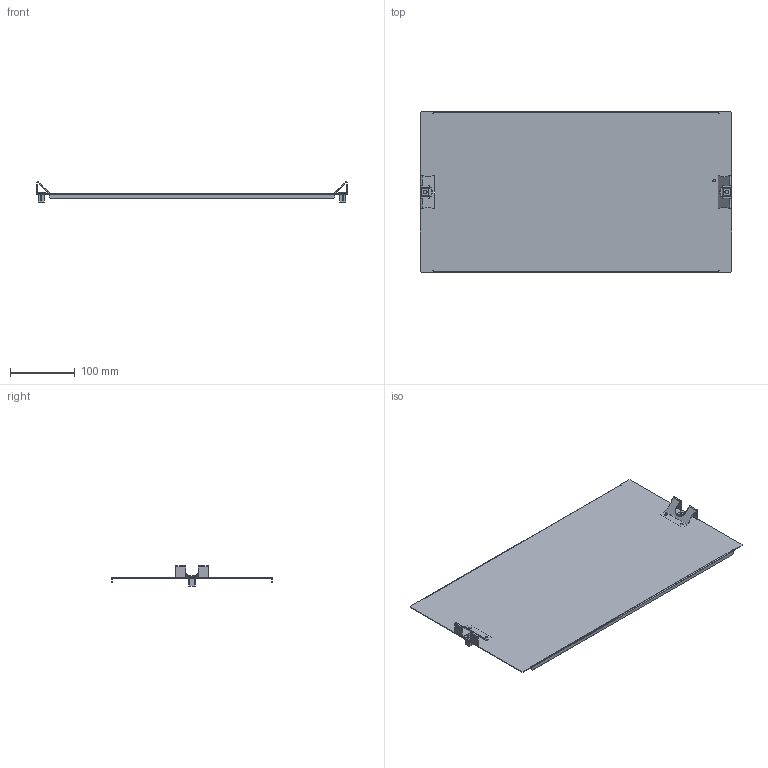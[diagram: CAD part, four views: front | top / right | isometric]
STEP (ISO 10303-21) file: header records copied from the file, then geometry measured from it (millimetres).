
FILE_DESCRIPTION(('CAx-IF Rec.Pracs.---Model Styling and Organization---1.2---2011-12-15','CAx-IF Rec.Pracs.---Geometric and Assembly Validation Properties---4.1---2014-06-16','CAx-IF Rec.Pracs.---PMI Polyline Presentation---2.0---2013-05-24'),'2;1');
FILE_NAME('R5FPI625.stp','2021-05-06T04:06:09+03:00',(''),(''),'STEP Interface 4.4 by CT CoreTechnologie','3D_Evolution4.4 by CT CoreTechnologie','');
FILE_SCHEMA(('AUTOMOTIVE_DESIGN { 1 0 10303 214 1 1 1 1 }'));
Length unit declared in the file: millimetre
Products named in the file (9): R5FPI625; RB.0516.00.00.1 ÑÁ_-06; RB.0516.00.01.1_-06; RB.0392.00.02.0_ª«¨­ç(1); RB.0392.00.02.0_ª«¨­ç(2); 294-9118.00-00050(1); RB.0376.00.00.0_-00; 294-9118.00-00050(2); 294-9118.00-00050(3)
Assembly tree (10 placements, depth 3):
  R5FPI625
    RB.0516.00.00.1 ÑÁ_-06
      RB.0516.00.01.1_-06
      RB.0392.00.02.0_ª«¨­ç(1)
      RB.0392.00.02.0_ª«¨­ç(2)
    294-9118.00-00050(1)
      RB.0376.00.00.0_-00
      294-9118.00-00050(2)
    294-9118.00-00050(3)
      RB.0376.00.00.0_-00
      294-9118.00-00050(2)
Bounding box: 481 x 248 x 31.03 mm (x, y, z)
Surface area: 261769.3 mm2 (no closed solid volume)
Topology: 0 solids, 15 shells, 250 faces, 626 edges, 404 vertices
Faces by surface type: plane 194, cylinder 40, bspline 16
Entity records: 6164 total; most frequent: CARTESIAN_POINT 1180, ORIENTED_EDGE 944, DIRECTION 936, EDGE_CURVE 472, VECTOR 384, LINE 384, VERTEX_POINT 308, AXIS2_PLACEMENT_3D 276
